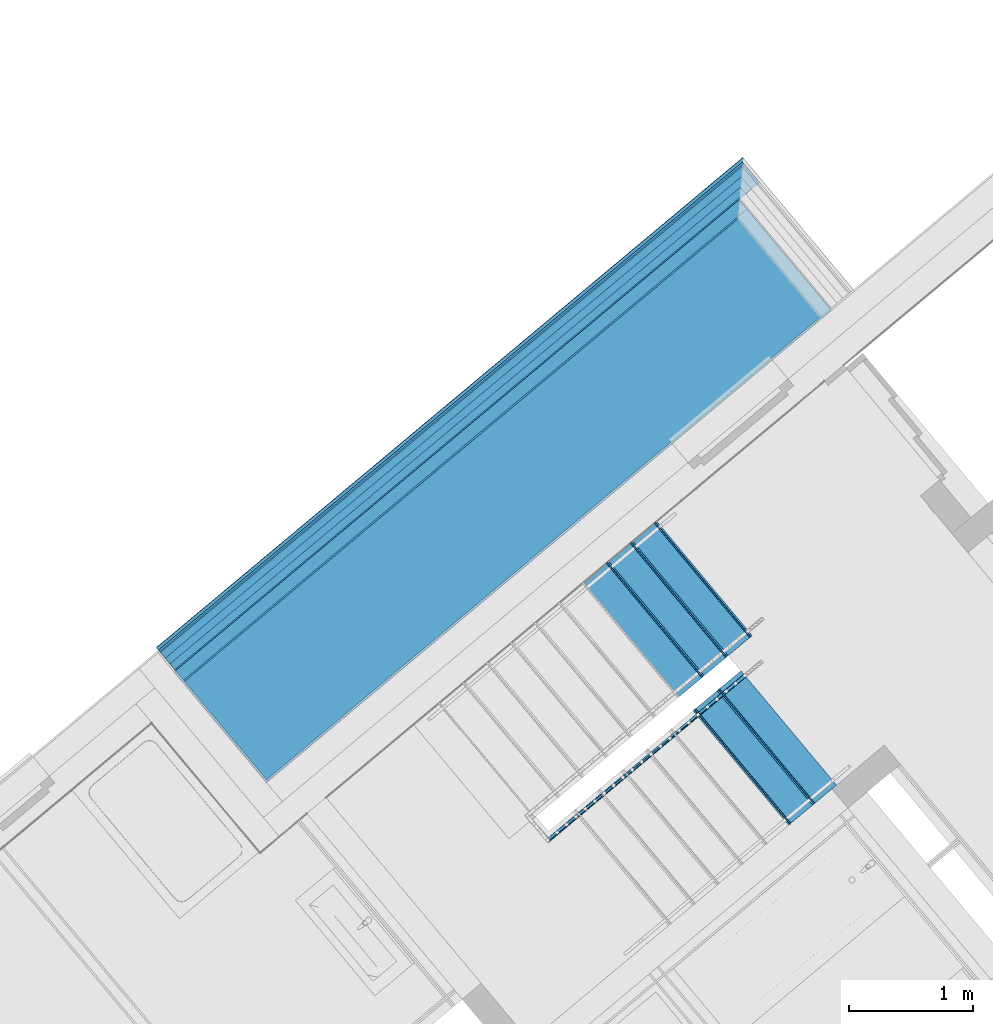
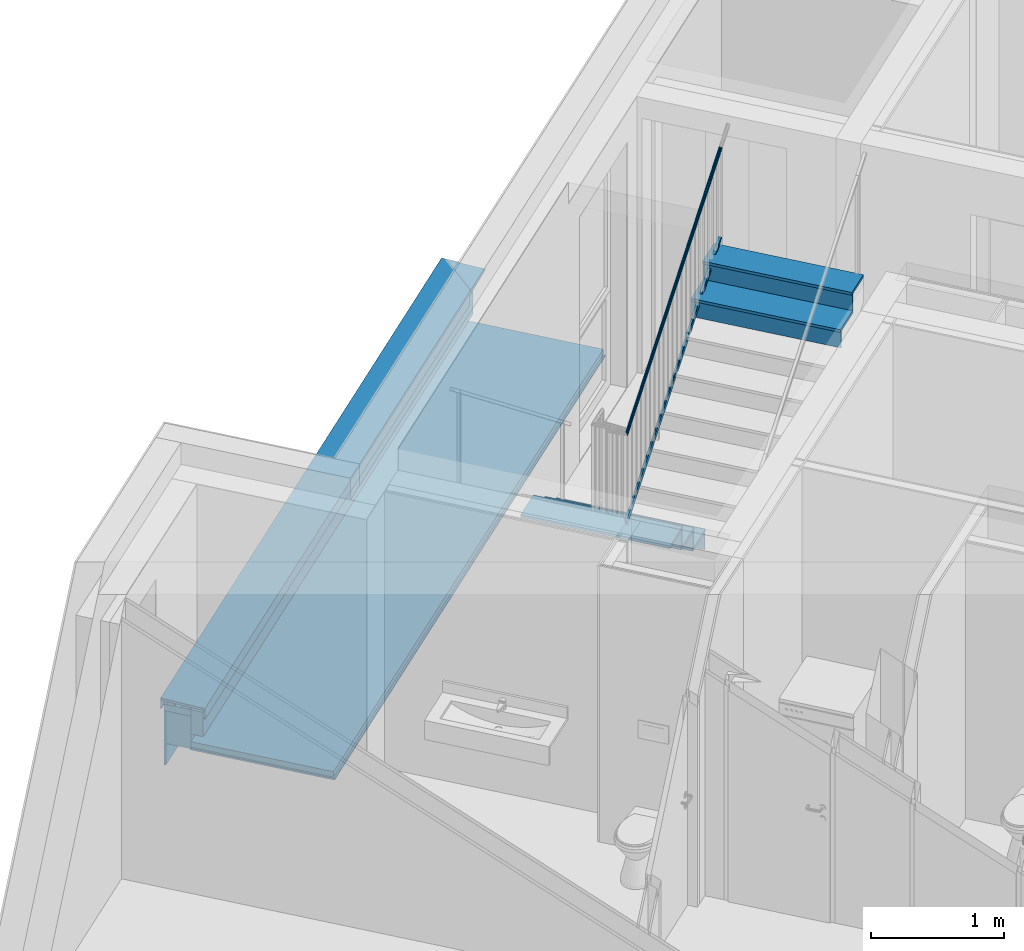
# One storey, part 31 of 50: 22 building element parts, 4 elements without a shape of their own.
"""IFC4 building model written with IfcOpenShell, lengths in metres."""

from ifc_helpers import new_model, entity, si_unit, converted_unit, derived_unit, direction, frame, origin_with_axes, place, context, subcontext, project, spatial, polygons, material, type_object, element, aggregate, save


model = new_model("IFC4")

# Units and contexts
model_context = context("Model", 3, precision=1e-05, world=origin_with_axes(), true_north=direction((0.0, 1.0)))
body_context = subcontext(model_context, "Body", "Model", "MODEL_VIEW")
ifc_project = project(units=[si_unit("LENGTHUNIT", "METRE"), si_unit("AREAUNIT", "SQUARE_METRE"), si_unit("VOLUMEUNIT", "CUBIC_METRE"), converted_unit("PLANEANGLEUNIT", "DEGREE", entity("IfcPlaneAngleMeasure", 0.0174532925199), si_unit("PLANEANGLEUNIT", "RADIAN"), dimensions=[0, 0, 0, 0, 0, 0, 0]), converted_unit("TIMEUNIT", "Year", entity("IfcTimeMeasure", 31556926.0), si_unit("TIMEUNIT", "SECOND"), dimensions=[0, 0, 1, 0, 0, 0, 0]), si_unit("MASSUNIT", "GRAM", prefix="KILO"), si_unit("THERMODYNAMICTEMPERATUREUNIT", "DEGREE_CELSIUS"), si_unit("LUMINOUSINTENSITYUNIT", "LUMEN"), si_unit("ENERGYUNIT", "JOULE", prefix="MEGA"), derived_unit("THERMALCONDUCTANCEUNIT", [(si_unit("POWERUNIT", "WATT"), 1), (si_unit("LENGTHUNIT", "METRE"), -1), (si_unit("THERMODYNAMICTEMPERATUREUNIT", "KELVIN"), -1)]), derived_unit("SPECIFICHEATCAPACITYUNIT", [(si_unit("ENERGYUNIT", "JOULE"), 1), (si_unit("MASSUNIT", "GRAM", prefix="KILO"), -1), (si_unit("THERMODYNAMICTEMPERATUREUNIT", "KELVIN"), -1)]), derived_unit("MASSDENSITYUNIT", [(si_unit("MASSUNIT", "GRAM", prefix="KILO"), 1), (si_unit("VOLUMEUNIT", "CUBIC_METRE"), -1)])], contexts=[model_context])

# Site, building, storey
site_placement = place(None, frame((-0.00153261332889, -0.00661245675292, 0.0), z_axis=(0.0, 0.0, 1.0), x_axis=(1.0, 0.0, 0.0)))
site = spatial("IfcSite", under=ifc_project, at=site_placement, Name="Site", CompositionType="ELEMENT")
building_placement = place(site_placement, origin_with_axes())
building = spatial("IfcBuilding", under=site, at=building_placement, Name="Building", CompositionType="ELEMENT")
storey_placement = place(building_placement, frame((0.0, 0.0, 2.74), z_axis=(0.0, 0.0, 1.0), x_axis=(1.0, 0.0, 0.0)))
storey = spatial("IfcBuildingStorey", under=building, at=storey_placement, Name="OG1", CompositionType="ELEMENT", Elevation=2.74)

# Railing, building element parts
railing_type = type_object("IfcRailingType", Name="Geländerart", PredefinedType="NOTDEFINED")
railing_placement = place(storey_placement, frame((-0.398547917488, 23.8355657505, 0.05), z_axis=(0.0, 0.0, 1.0), x_axis=(1.0, 0.0, 0.0)))
railing = element("IfcRailing", 1, at=railing_placement, inside=storey, type_object=railing_type, Name="Geländer - 001", PredefinedType="NOTDEFINED")
ifc_material_1 = material(Name="BEKLEIDUNG")
building_element_part_1_placement = place(railing_placement, origin_with_axes())
building_element_part_1 = element("IfcBuildingElementPart", 2, at=building_element_part_1_placement, material=ifc_material_1, Name="BEKLEIDUNG", PredefinedType="NOTDEFINED", context=body_context, shape_type="Tessellation", body=[
    polygons([(-1.63742845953, -1.63075810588, 2.62537536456), (-1.63846858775, -1.63088446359, 2.62789734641), (-0.0630386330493, -0.30687497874, 3.89943593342), (-1.63648900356, -1.63122206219, 2.62285338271), (-1.63567876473, -1.63226223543, 2.62040803), (-1.63502236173, -1.63384702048, 2.61811360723), (-1.63453973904, -1.63592826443, 2.61603982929), (-1.63424556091, -1.63844272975, 2.61424970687), (-1.63414876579, -1.64131401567, 2.61279763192), (-1.63425229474, -1.64445487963, 2.61172772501), (-1.63455300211, -1.64776988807, 2.61107249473), (-1.63504175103, -1.65115831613, 2.61085184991), (-1.63570369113, -1.65451720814, 2.61107249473), (-1.63651870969, -1.65774450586, 2.61172772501), (-1.63746204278, -1.66074214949, 2.61279763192), (-1.63850502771, -1.66341905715, 2.61424970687), (-1.63961597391, -1.66569389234, 2.61603982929), (-1.64076112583, -1.66749753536, 2.61811360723), (-1.64190568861, -1.66877518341, 2.62040803), (-1.64301488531, -1.66948801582, 2.62285338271), (-1.64405501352, -1.66961437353, 2.62537536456), (-1.64499446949, -1.66915041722, 2.62789734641), (-1.64580470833, -1.66811024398, 2.63034269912), (-1.64646111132, -1.66652545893, 2.63263712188), (-1.64694373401, -1.66444421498, 2.63471089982), (-1.64723791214, -1.66192974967, 2.63650102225), (-1.64733470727, -1.65905846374, 2.6379530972), (-1.64723117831, -1.65591759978, 2.6390230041), (-1.64693047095, -1.65260259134, 2.63967823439), (-1.64644172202, -1.64921416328, 2.63989887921), (-1.64577978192, -1.64585527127, 2.63967823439), (-1.64496476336, -1.64262797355, 2.6390230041), (-1.64402143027, -1.63963032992, 2.6379530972), (-1.64297844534, -1.63695342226, 2.63650102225), (-1.64186749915, -1.63467858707, 2.63471089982), (-1.64072234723, -1.63287494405, 2.63263712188), (-1.63957778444, -1.631597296, 2.63034269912), (-0.0636185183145, -0.30824141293, 3.90158839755), (-0.0621391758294, -0.305826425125, 3.89721601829), (-0.0609474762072, -0.305127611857, 3.89499610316), (-0.0594997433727, -0.304799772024, 3.89284363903), (-0.0578399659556, -0.304852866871, 3.89082402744), (-0.0560185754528, -0.305285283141, 3.88899863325), (-0.054090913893, -0.306083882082, 3.88742292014), (-0.0521155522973, -0.30722439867, 3.88614476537), (-0.0501525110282, -0.308672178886, 3.88520300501), (-0.0482614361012, -0.310383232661, 3.88462625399), (-0.0464997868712, -0.312305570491, 3.88443203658), (-0.0449210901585, -0.314380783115, 3.88462625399), (-0.043573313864, -0.316545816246, 3.88520300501), (-0.0424974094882, -0.318734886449, 3.88614476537), (-0.0417260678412, -0.320881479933, 3.88742292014), (-0.0412827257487, -0.322920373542, 3.88899863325), (-0.0411808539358, -0.324789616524, 3.89082402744), (-0.041423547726, -0.326432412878, 3.89284363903), (-0.0420034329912, -0.327798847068, 3.89499610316), (-0.0429028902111, -0.328847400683, 3.89721601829), (-0.0440945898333, -0.329546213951, 3.89943593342), (-0.0455423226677, -0.329874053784, 3.90158839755), (-0.0472021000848, -0.329820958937, 3.90360800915), (-0.0490234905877, -0.329388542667, 3.90543340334), (-0.0509511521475, -0.328589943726, 3.90700911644), (-0.0529265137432, -0.327449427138, 3.90828727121), (-0.0548895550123, -0.326001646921, 3.90922903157), (-0.0567806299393, -0.324290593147, 3.90980578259), (-0.0585422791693, -0.322368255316, 3.91), (-0.0601209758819, -0.320293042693, 3.90980578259), (-0.0614687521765, -0.318128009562, 3.90922903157), (-0.0625446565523, -0.315938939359, 3.90828727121), (-0.0633159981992, -0.313792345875, 3.90700911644), (-0.0637593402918, -0.311753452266, 3.90543340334), (-0.0638612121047, -0.309884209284, 3.90360800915)], [[[1, 2, 3]], [[1, 4, 5, 6, 7, 8, 9, 10, 11, 12, 13, 14, 15, 16, 17, 18, 19, 20, 21, 22, 23, 24, 25, 26, 27, 28, 29, 30, 31, 32, 33, 34, 35, 36, 37, 2]], [[2, 38, 3]], [[1, 3, 39]], [[4, 1, 39]], [[5, 4, 40]], [[6, 5, 41]], [[7, 6, 42]], [[8, 7, 43]], [[9, 8, 44]], [[10, 9, 45]], [[11, 10, 46]], [[12, 11, 47]], [[13, 12, 48]], [[14, 13, 49]], [[15, 14, 50]], [[16, 15, 51]], [[17, 16, 52]], [[18, 17, 53]], [[19, 18, 54]], [[20, 19, 55]], [[21, 20, 56]], [[22, 21, 57]], [[23, 22, 58]], [[24, 23, 59]], [[25, 24, 60]], [[26, 25, 61]], [[27, 26, 62]], [[28, 27, 63]], [[29, 28, 64]], [[30, 29, 65]], [[31, 30, 66]], [[32, 31, 67]], [[33, 32, 68]], [[34, 33, 69]], [[35, 34, 70]], [[36, 35, 71]], [[37, 36, 72]], [[2, 37, 38]], [[39, 3, 38, 72, 71, 70, 69, 68, 67, 66, 65, 64, 63, 62, 61, 60, 59, 58, 57, 56, 55, 54, 53, 52, 51, 50, 49, 48, 47, 46, 45, 44, 43, 42, 41, 40]], [[4, 39, 40]], [[5, 40, 41]], [[6, 41, 42]], [[7, 42, 43]], [[8, 43, 44]], [[9, 44, 45]], [[10, 45, 46]], [[11, 46, 47]], [[12, 47, 48]], [[13, 48, 49]], [[14, 49, 50]], [[15, 50, 51]], [[16, 51, 52]], [[17, 52, 53]], [[18, 53, 54]], [[19, 54, 55]], [[20, 55, 56]], [[21, 56, 57]], [[22, 57, 58]], [[23, 58, 59]], [[24, 59, 60]], [[25, 60, 61]], [[26, 61, 62]], [[27, 62, 63]], [[28, 63, 64]], [[29, 64, 65]], [[30, 65, 66]], [[31, 66, 67]], [[32, 67, 68]], [[33, 68, 69]], [[34, 69, 70]], [[35, 70, 71]], [[36, 71, 72]], [[37, 72, 38]]], closed=True),
])
building_element_part_2_placement = place(railing_placement, origin_with_axes())
building_element_part_2 = element("IfcBuildingElementPart", 3, at=building_element_part_2_placement, material=ifc_material_1, Name="BEKLEIDUNG", PredefinedType="NOTDEFINED", context=body_context, shape_type="Tessellation", body=[
    polygons([(-1.6539527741, -1.66459421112, 1.82200180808), (-1.64445279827, -1.66621433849, 1.79779595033), (-0.0455094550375, -0.327767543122, 3.06934668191), (-1.64843064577, -1.63221398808, 1.82200180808), (-1.63893066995, -1.63383411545, 1.79779595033), (-0.0615396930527, -0.308583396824, 3.06934668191), (-0.0555448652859, -0.336153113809, 3.09065331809), (-0.0715751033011, -0.316968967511, 3.09065331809)], [[[1, 2, 3]], [[1, 4, 5, 2]], [[2, 6, 3]], [[1, 3, 7]], [[4, 1, 7]], [[5, 4, 8]], [[2, 5, 6]], [[7, 3, 6, 8]], [[4, 7, 8]], [[5, 8, 6]]], closed=True),
])
aggregate(railing, [building_element_part_1, building_element_part_2])

# Stair, building element parts
stair_type = type_object("IfcStairType", Name="Treppentyp", PredefinedType="NOTDEFINED")
stair_placement = place(storey_placement, frame((-0.972083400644, 24.9200947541, 0.05), z_axis=(0.0, 0.0, 1.0), x_axis=(1.0, 0.0, 0.0)))
stair = element("IfcStair", 4, at=stair_placement, inside=storey, type_object=stair_type, Name="Treppe - 001", PredefinedType="NOTDEFINED")
building_element_part_3_placement = place(stair_placement, origin_with_axes())
building_element_part_3 = element("IfcBuildingElementPart", 5, at=building_element_part_3_placement, material=ifc_material_1, Name="BEKLEIDUNG", PredefinedType="NOTDEFINED", context=body_context, shape_type="Tessellation", body=[
    polygons([(-0.207379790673, -0.173268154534, 0.152058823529), (-0.215053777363, -0.179679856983, 0.152058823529), (0.55435051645, -1.10055825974, 0.152058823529), (0.56202450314, -1.09414655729, 0.152058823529), (-0.207379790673, -0.173268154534, 0.0), (-0.215053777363, -0.179679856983, 0.0), (0.55435051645, -1.10055825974, 0.0), (0.56202450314, -1.09414655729, 0.0)], [[[1, 2, 3, 4]], [[1, 5, 6, 2]], [[2, 6, 7, 3]], [[4, 3, 7, 8]], [[5, 1, 4, 8]], [[6, 5, 8, 7]]], closed=True),
])
building_element_part_4_placement = place(stair_placement, origin_with_axes())
building_element_part_4 = element("IfcBuildingElementPart", 6, at=building_element_part_4_placement, material=ifc_material_1, Name="BEKLEIDUNG", PredefinedType="NOTDEFINED", context=body_context, shape_type="Tessellation", body=[
    polygons([(-0.400526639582, -0.334644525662, 0.329117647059), (-0.408200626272, -0.341056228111, 0.329117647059), (0.361203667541, -1.26193463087, 0.329117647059), (0.368877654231, -1.25552292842, 0.329117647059), (-0.400526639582, -0.334644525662, 0.177058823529), (-0.408200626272, -0.341056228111, 0.177058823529), (0.361203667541, -1.26193463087, 0.177058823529), (0.368877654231, -1.25552292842, 0.177058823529)], [[[1, 2, 3, 4]], [[1, 5, 6, 2]], [[2, 6, 7, 3]], [[4, 3, 7, 8]], [[5, 1, 4, 8]], [[6, 5, 8, 7]]], closed=True),
])
building_element_part_5_placement = place(stair_placement, origin_with_axes())
building_element_part_5 = element("IfcBuildingElementPart", 7, at=building_element_part_5_placement, material=ifc_material_1, Name="BEKLEIDUNG", PredefinedType="NOTDEFINED", context=body_context, shape_type="Tessellation", body=[
    polygons([(-0.593673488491, -0.49602089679, 0.506176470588), (-0.601347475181, -0.502432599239, 0.506176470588), (0.168056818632, -1.42331100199, 0.506176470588), (0.175730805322, -1.41689929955, 0.506176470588), (-0.593673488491, -0.49602089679, 0.354117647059), (-0.601347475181, -0.502432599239, 0.354117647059), (0.168056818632, -1.42331100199, 0.354117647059), (0.175730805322, -1.41689929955, 0.354117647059)], [[[1, 2, 3, 4]], [[1, 5, 6, 2]], [[2, 6, 7, 3]], [[4, 3, 7, 8]], [[5, 1, 4, 8]], [[6, 5, 8, 7]]], closed=True),
])
building_element_part_6_placement = place(stair_placement, origin_with_axes())
building_element_part_6 = element("IfcBuildingElementPart", 8, at=building_element_part_6_placement, material=ifc_material_1, Name="BEKLEIDUNG", PredefinedType="NOTDEFINED", context=body_context, shape_type="Tessellation", body=[
    polygons([(0.877617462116, -2.60252235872, 2.80794117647), (0.885291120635, -2.59611026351, 2.80794117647), (0.115839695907, -1.67527124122, 2.80794117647), (0.108166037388, -1.68168333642, 2.80794117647), (0.877617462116, -2.60252235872, 2.65588235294), (0.885291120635, -2.59611026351, 2.65588235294), (0.115839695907, -1.67527124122, 2.65588235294), (0.108166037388, -1.68168333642, 2.65588235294)], [[[1, 2, 3, 4]], [[1, 5, 6, 2]], [[2, 6, 7, 3]], [[4, 3, 7, 8]], [[5, 1, 4, 8]], [[6, 5, 8, 7]]], closed=True),
])
building_element_part_7_placement = place(stair_placement, origin_with_axes())
building_element_part_7 = element("IfcBuildingElementPart", 9, at=building_element_part_7_placement, material=ifc_material_1, Name="BEKLEIDUNG", PredefinedType="NOTDEFINED", context=body_context, shape_type="Tessellation", body=[
    polygons([(1.07075605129, -2.44113610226, 2.985), (1.07842970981, -2.43472400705, 2.985), (0.30897828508, -1.51388498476, 2.985), (0.301304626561, -1.52029707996, 2.985), (1.07075605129, -2.44113610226, 2.83294117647), (1.07842970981, -2.43472400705, 2.83294117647), (0.30897828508, -1.51388498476, 2.83294117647), (0.301304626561, -1.52029707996, 2.83294117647)], [[[1, 2, 3, 4]], [[1, 5, 6, 2]], [[2, 6, 7, 3]], [[4, 3, 7, 8]], [[5, 1, 4, 8]], [[6, 5, 8, 7]]], closed=True),
])
building_element_part_8_placement = place(stair_placement, origin_with_axes())
building_element_part_8 = element("IfcBuildingElementPart", 10, at=building_element_part_8_placement, material=ifc_material_1, Name="BEKLEIDUNG", PredefinedType="NOTDEFINED", context=body_context, shape_type="Tessellation", body=[
    polygons([(0.573535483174, -1.08452900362, 0.152058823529), (-0.195868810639, -0.163650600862, 0.152058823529), (-0.195868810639, -0.163650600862, 0.177058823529), (0.573535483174, -1.08452900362, 0.177058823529), (0.361203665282, -1.26193463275, 0.152058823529), (-0.408200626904, -0.341056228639, 0.152058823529), (-0.408200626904, -0.341056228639, 0.177058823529), (0.361203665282, -1.26193463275, 0.177058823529)], [[[1, 2, 3, 4]], [[1, 5, 6, 2]], [[2, 6, 7, 3]], [[4, 3, 7, 8]], [[5, 1, 4, 8]], [[6, 5, 8, 7]]], closed=True),
])
building_element_part_9_placement = place(stair_placement, origin_with_axes())
building_element_part_9 = element("IfcBuildingElementPart", 11, at=building_element_part_9_placement, material=ifc_material_1, Name="BEKLEIDUNG", PredefinedType="NOTDEFINED", context=body_context, shape_type="Tessellation", body=[
    polygons([(0.380388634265, -1.24590537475, 0.329117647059), (-0.389015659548, -0.32502697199, 0.329117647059), (-0.389015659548, -0.32502697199, 0.354117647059), (0.380388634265, -1.24590537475, 0.354117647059), (0.168056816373, -1.42331100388, 0.329117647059), (-0.601347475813, -0.502432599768, 0.329117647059), (-0.601347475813, -0.502432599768, 0.354117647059), (0.168056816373, -1.42331100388, 0.354117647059)], [[[1, 2, 3, 4]], [[1, 5, 6, 2]], [[2, 6, 7, 3]], [[4, 3, 7, 8]], [[5, 1, 4, 8]], [[6, 5, 8, 7]]], closed=True),
])
building_element_part_10_placement = place(stair_placement, origin_with_axes())
building_element_part_10 = element("IfcBuildingElementPart", 12, at=building_element_part_10_placement, material=ifc_material_1, Name="BEKLEIDUNG", PredefinedType="NOTDEFINED", context=body_context, shape_type="Tessellation", body=[
    polygons([(0.187241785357, -1.40728174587, 0.506176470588), (-0.582162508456, -0.486403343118, 0.506176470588), (-0.582162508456, -0.486403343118, 0.531176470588), (0.187241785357, -1.40728174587, 0.531176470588), (-0.0250900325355, -1.58468737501, 0.506176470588), (-0.794494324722, -0.663808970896, 0.506176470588), (-0.794494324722, -0.663808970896, 0.531176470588), (-0.0250900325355, -1.58468737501, 0.531176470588)], [[[1, 2, 3, 4]], [[1, 5, 6, 2]], [[2, 6, 7, 3]], [[4, 3, 7, 8]], [[5, 1, 4, 8]], [[6, 5, 8, 7]]], closed=True),
])
building_element_part_11_placement = place(stair_placement, origin_with_axes())
building_element_part_11 = element("IfcBuildingElementPart", 13, at=building_element_part_11_placement, material=ifc_material_1, Name="BEKLEIDUNG", PredefinedType="NOTDEFINED", context=body_context, shape_type="Tessellation", body=[
    polygons([(0.0966555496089, -1.69130147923, 2.80794117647), (0.866106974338, -2.61214050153, 2.80794117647), (0.866106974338, -2.61214050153, 2.83294117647), (0.0966555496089, -1.69130147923, 2.83294117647), (0.308978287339, -1.51388498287, 2.80794117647), (1.07842971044, -2.43472400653, 2.80794117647), (1.07842971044, -2.43472400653, 2.83294117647), (0.308978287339, -1.51388498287, 2.83294117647)], [[[1, 2, 3, 4]], [[1, 5, 6, 2]], [[2, 6, 7, 3]], [[4, 3, 7, 8]], [[5, 1, 4, 8]], [[6, 5, 8, 7]]], closed=True),
])
building_element_part_12_placement = place(stair_placement, origin_with_axes())
building_element_part_12 = element("IfcBuildingElementPart", 14, at=building_element_part_12_placement, material=ifc_material_1, Name="BEKLEIDUNG", PredefinedType="NOTDEFINED", context=body_context, shape_type="Tessellation", body=[
    polygons([(0.289794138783, -1.52991522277, 2.985), (1.05924556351, -2.45075424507, 2.985), (1.05924556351, -2.45075424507, 3.01), (0.289794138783, -1.52991522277, 3.01), (0.482932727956, -1.36852896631, 2.985), (1.25238415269, -2.28936798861, 2.985), (1.25238415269, -2.28936798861, 3.01), (0.482932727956, -1.36852896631, 3.01)], [[[1, 2, 3, 4]], [[1, 5, 6, 2]], [[2, 6, 7, 3]], [[4, 3, 7, 8]], [[5, 1, 4, 8]], [[6, 5, 8, 7]]], closed=True),
])
aggregate(stair, [building_element_part_3, building_element_part_4, building_element_part_5, building_element_part_6, building_element_part_7, building_element_part_8, building_element_part_9, building_element_part_10, building_element_part_11, building_element_part_12])

# Wall, building element parts
wall_type = type_object("IfcWallType", Name="Bauteil - Attika Balkon 356 x 610", PredefinedType="NOTDEFINED")
wall_placement = place(storey_placement, frame((-5.04439151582, 23.5527984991, -0.2), z_axis=(0.0, 0.0, 1.0), x_axis=(0.767365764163, 0.641209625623, 0.0)))
wall = element("IfcWall", 15, at=wall_placement, inside=storey, type_object=wall_type, Name="Wand-002", PredefinedType="NOTDEFINED")
ifc_material_2 = material(Name="Zementputz")
building_element_part_13_placement = place(wall_placement, origin_with_axes())
building_element_part_13 = element("IfcBuildingElementPart", 16, at=building_element_part_13_placement, material=ifc_material_2, Name="Zementputz", PredefinedType="NOTDEFINED", context=body_context, shape_type="Tessellation", body=[
    polygons([(6.13190948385, 0.199999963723, 0.200000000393), (6.13190948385, 0.199999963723, 0.499999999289), (0.0, 0.199999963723, 0.500000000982), (0.0, 0.199999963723, 0.200000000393), (6.13190948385, 0.199999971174, 0.0), (6.13190921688, 0.214999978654, 0.0), (6.13190921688, 0.214999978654, 0.499999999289), (0.0, 0.214999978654, 0.500000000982), (0.0, 0.214999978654, 0.0), (0.0, 0.199999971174, 0.0)], [[[1, 2, 3, 4]], [[2, 1, 5, 6, 7]], [[2, 7, 8, 3]], [[3, 8, 9, 10, 4]], [[5, 1, 4, 10]], [[6, 5, 10, 9]], [[7, 6, 9, 8]]], closed=True),
])
ifc_material_3 = material(Name="Vollholz")
building_element_part_14_placement = place(wall_placement, origin_with_axes())
building_element_part_14 = element("IfcBuildingElementPart", 17, at=building_element_part_14_placement, material=ifc_material_3, Name="Vollholz", PredefinedType="NOTDEFINED", context=body_context, shape_type="Tessellation", body=[
    polygons([(6.10690581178, 0.189996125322, 0.584015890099), (6.10690687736, 0.130124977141, 0.584015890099), (6.10691811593, 0.130124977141, 0.581921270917), (6.10691705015, 0.190007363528, 0.581921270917), (6.10689467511, 0.189984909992, 0.586106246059), (6.10695215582, 0.130124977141, 0.575576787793), (6.10692937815, 0.130124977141, 0.57982217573), (0.0, 0.130124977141, 0.584015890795), (0.0, 0.130124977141, 0.560000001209), (6.10703572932, 0.130124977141, 0.560000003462), (6.10692831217, 0.190018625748, 0.57982217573), (6.10695108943, 0.190041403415, 0.575576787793), (6.10703466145, 0.190124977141, 0.560000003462), (0.0, 0.190124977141, 0.560000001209), (0.0, 0.189984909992, 0.586106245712)], [[[1, 2, 3, 4]], [[5, 2, 1]], [[6, 7, 3, 2, 8, 9, 10]], [[7, 11, 4, 3]], [[5, 1, 4, 11, 12, 13, 14, 15]], [[2, 5, 15, 8]], [[11, 7, 6, 12]], [[15, 14, 9, 8]], [[13, 10, 9, 14]], [[10, 13, 12, 6]]], closed=True),
])
ifc_material_4 = material(Name="Brettschichtholz")
building_element_part_15_placement = place(wall_placement, origin_with_axes())
building_element_part_15 = element("IfcBuildingElementPart", 18, at=building_element_part_15_placement, material=ifc_material_4, Name="Brettschichtholz", PredefinedType="NOTDEFINED", context=body_context, shape_type="Tessellation", body=[
    polygons([(6.13191304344, 0.0, 0.519273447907), (6.13191304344, 0.0, 0.56000000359), (0.0, 0.0, 0.560000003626), (0.0, 0.0, 0.499999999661), (6.13191304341, 0.0, 0.499999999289), (6.13191304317, 0.0, 0.509099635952), (6.13191304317, 0.0, 0.511410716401), (6.13191286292, 0.010142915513, 0.56000000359), (6.1319092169, 0.214999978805, 0.519273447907), (6.1319092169, 0.214999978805, 0.56000000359), (6.13190965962, 0.190124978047, 0.56000000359), (6.13191072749, 0.130124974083, 0.56000000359), (6.13191179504, 0.0701429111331, 0.56000000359), (0.0, 0.010142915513, 0.559999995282), (0.0, 0.130124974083, 0.559999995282), (0.0, 0.190124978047, 0.559999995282), (0.0, 0.214999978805, 0.560000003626), (0.0, 0.214999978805, 0.499999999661), (0.0, 0.0701429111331, 0.559999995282), (6.13190921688, 0.214999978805, 0.499999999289), (6.13190921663, 0.214999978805, 0.509099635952), (6.13190921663, 0.214999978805, 0.511410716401)], [[[1, 2, 3, 4, 5, 6, 7]], [[8, 2, 1, 9, 10, 11, 12, 13]], [[2, 8, 14, 3]], [[15, 16, 17, 18, 4, 3, 14, 19]], [[18, 20, 5, 4]], [[21, 6, 5, 20]], [[22, 7, 6, 21]], [[9, 1, 7, 22]], [[10, 9, 22, 21, 20, 18, 17]], [[11, 10, 17, 16]], [[12, 11, 16, 15]], [[13, 12, 15, 19]], [[8, 13, 19, 14]]], closed=True),
])
ifc_material_5 = material(Name="Stahlbeton")
building_element_part_16_placement = place(wall_placement, origin_with_axes())
building_element_part_16 = element("IfcBuildingElementPart", 19, at=building_element_part_16_placement, material=ifc_material_5, Name="Stahlbeton", PredefinedType="NOTDEFINED", context=body_context, shape_type="Tessellation", body=[
    polygons([(6.11691302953, 1.05296749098e-09, 0.498915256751), (6.11691302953, 1.05296749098e-09, 0.500000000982), (0.0, 1.05297104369e-09, 0.500000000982), (0.0, 1.05297104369e-09, 0.335000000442), (6.11691302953, 1.05296749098e-09, 0.334999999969), (6.11691302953, 1.05296749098e-09, 0.496604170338), (6.11690946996, 0.19999996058, 0.500000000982), (6.11690946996, 0.19999996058, 0.498915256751), (0.0, 0.19999996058, 0.500000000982), (0.0, 0.19999996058, 0.2), (0.0, 1.05297104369e-09, 0.2), (6.11691302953, 1.05296749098e-09, 0.2), (6.11690946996, 0.19999996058, 0.496604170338), (6.11690946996, 0.19999996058, 0.334999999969), (6.11690946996, 0.19999996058, 0.2)], [[[1, 2, 3, 4, 5, 6]], [[7, 2, 1, 8]], [[2, 7, 9, 3]], [[3, 9, 10, 11, 4]], [[12, 5, 4, 11]], [[13, 6, 5, 14]], [[8, 1, 6, 13]], [[7, 8, 13, 14, 15, 10, 9]], [[15, 12, 11, 10]], [[14, 5, 12, 15]]], closed=True),
])
building_element_part_17_placement = place(wall_placement, origin_with_axes())
building_element_part_17 = element("IfcBuildingElementPart", 20, at=building_element_part_17_placement, material=ifc_material_3, Name="Vollholz", PredefinedType="NOTDEFINED", context=body_context, shape_type="Tessellation", body=[
    polygons([(5.98705472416, 0.0701429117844, 0.57982217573), (5.98705579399, 0.0100326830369, 0.57982217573), (5.98705579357, 0.0100562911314, 0.575576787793), (5.98705472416, 0.0701429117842, 0.575576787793), (5.98705472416, 0.0701429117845, 0.581921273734), (0.0, 0.0100326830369, 0.579822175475), (0.0, 0.0101429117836, 0.560000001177), (5.98705579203, 0.0101429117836, 0.560000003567), (5.98705472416, 0.0701429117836, 0.560000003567), (0.0, 0.0701429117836, 0.560000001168), (0.0, 0.0701429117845, 0.581921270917)], [[[1, 2, 3, 4]], [[5, 2, 1]], [[2, 6, 7, 8, 3]], [[4, 3, 8, 9]], [[5, 1, 4, 9, 10, 11]], [[2, 5, 11, 6]], [[7, 6, 11, 10]], [[9, 8, 7, 10]]], closed=True),
])
ifc_material_6 = material(Name="EPS 1")
building_element_part_18_placement = place(wall_placement, origin_with_axes())
building_element_part_18 = element("IfcBuildingElementPart", 21, at=building_element_part_18_placement, material=ifc_material_6, Name="EPS 1", PredefinedType="NOTDEFINED", context=body_context, shape_type="Tessellation", body=[
    polygons([(5.91691484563, -0.0999999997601, 0.519273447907), (5.91691484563, -0.0999999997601, 0.560000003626), (0.0, -0.0999999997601, 0.560000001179), (0.0, -0.0999999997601, 0.334999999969), (5.91691484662, -0.0999999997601, 0.334999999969), (5.91691484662, -0.0999999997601, 0.496604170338), (5.91691484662, -0.0999999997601, 0.498915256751), (5.91691484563, -0.0999999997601, 0.499999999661), (5.91691484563, -0.0999999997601, 0.506731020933), (5.91691484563, -0.0999999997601, 0.509099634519), (5.91691484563, -0.0999999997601, 0.511410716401), (5.91691306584, 2.39911202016e-10, 0.560000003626), (5.91691306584, 2.39911202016e-10, 0.519273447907), (0.0, 2.39907649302e-10, 0.560000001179), (0.0, 2.39907649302e-10, 0.334999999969), (5.91691306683, 2.39904096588e-10, 0.334999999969), (5.91691306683, 2.39911202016e-10, 0.496604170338), (5.91691306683, 2.39911202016e-10, 0.498915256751), (5.91691306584, 2.39893438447e-10, 0.499999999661), (5.91691306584, 2.39911202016e-10, 0.506731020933), (5.91691306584, 2.39911202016e-10, 0.509099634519), (5.91691306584, 2.39911202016e-10, 0.511410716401)], [[[1, 2, 3, 4, 5, 6, 7, 8, 9, 10, 11]], [[12, 2, 1, 13]], [[2, 12, 14, 3]], [[4, 3, 14, 15]], [[16, 5, 4, 15]], [[17, 6, 5, 16]], [[18, 7, 6, 17]], [[19, 8, 7, 18]], [[20, 9, 8, 19]], [[21, 10, 9, 20]], [[22, 11, 10, 21]], [[13, 1, 11, 22]], [[12, 13, 22, 21, 20, 19, 18, 17, 16, 15, 14]]], closed=True),
])
ifc_material_7 = material(Name="Holzwerkstoff")
building_element_part_19_placement = place(wall_placement, origin_with_axes())
building_element_part_19 = element("IfcBuildingElementPart", 22, at=building_element_part_19_placement, material=ifc_material_7, Name="Holzwerkstoff", PredefinedType="NOTDEFINED", context=body_context, shape_type="Tessellation", body=[
    polygons([(0.0, -0.111539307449, 0.575576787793), (0.0, 0.0100326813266, 0.579822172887), (5.92694548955, 0.0100326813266, 0.579822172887), (5.80537573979, -0.111539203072, 0.575576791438), (0.0, -0.112247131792, 0.5958462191), (0.0, 0.23927649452, 0.608570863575), (0.0, 0.23999998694, 0.587852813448), (0.0, 0.189984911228, 0.586106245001), (0.0, 0.13012497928, 0.584015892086), (0.0, 0.0701429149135, 0.581921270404), (5.98705471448, 0.0701429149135, 0.581921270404), (5.92694773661, -0.111687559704, 0.579822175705), (5.98705796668, -0.111760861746, 0.581921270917), (6.0470400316, -0.11183400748, 0.584015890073), (6.10689996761, -0.111907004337, 0.586106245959), (6.15691504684, -0.111967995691, 0.587852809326), (6.15663591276, -0.112247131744, 0.595846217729), (6.15618529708, 0.23927649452, 0.608570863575), (6.15662964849, 0.239720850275, 0.595846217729), (6.15690878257, 0.239999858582, 0.587852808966), (6.10689456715, 0.189984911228, 0.586106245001), (6.04703572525, 0.130124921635, 0.584015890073)], [[[1, 2, 3, 4]], [[1, 5, 6, 7, 8, 9, 10, 2]], [[2, 10, 11, 3]], [[12, 4, 3]], [[5, 1, 4, 12, 13, 14, 15, 16, 17]], [[6, 5, 17, 18]], [[7, 6, 18, 19, 20]], [[8, 7, 20, 21]], [[9, 8, 21, 22]], [[10, 9, 22, 11]], [[13, 12, 3, 11]], [[14, 13, 11, 22]], [[14, 22, 21, 15]], [[21, 20, 16, 15]], [[20, 19, 17, 16]], [[19, 18, 17]]], closed=True),
])
ifc_material_8 = material(Name="Stahl")
building_element_part_20_placement = place(wall_placement, origin_with_axes())
building_element_part_20 = element("IfcBuildingElementPart", 23, at=building_element_part_20_placement, material=ifc_material_8, Name="Stahl", PredefinedType="NOTDEFINED", context=body_context, shape_type="Tessellation", body=[
    polygons([(0.0, -0.113600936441, 0.597151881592), (0.0, -0.113600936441, 0.497561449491), (5.80522870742, -0.113600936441, 0.497561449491), (5.80658251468, -0.11360093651, 0.498915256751), (5.80466795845, -0.11360093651, 0.498915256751), (5.80466795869, -0.11360093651, 0.499999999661), (5.80466795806, -0.11360093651, 0.506731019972), (5.80466795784, -0.11360093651, 0.509099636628), (5.80466795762, -0.11360093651, 0.511410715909), (5.80466795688, -0.1136009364, 0.519273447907), (5.80466795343, -0.11360093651, 0.560000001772), (5.8046679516, -0.11360093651, 0.575576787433), (5.8046679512, -0.11360093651, 0.579822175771), (5.80466795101, -0.11360093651, 0.581921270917), (5.80466795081, -0.11360093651, 0.584015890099), (5.80466795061, -0.11360093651, 0.586106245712), (5.80466795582, -0.11360093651, 0.5958462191), (5.84073751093, -0.11360093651, 0.597151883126), (0.0, -0.112643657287, 0.496604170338), (0.0, 0.242707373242, 0.610055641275), (0.0, 0.242707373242, 0.510056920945), (0.0, 0.241750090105, 0.509099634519), (0.0, 0.232580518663, 0.518269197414), (0.0, 0.233490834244, 0.519273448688), (0.0, 0.241353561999, 0.511410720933), (0.0, 0.24135992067, 0.60865214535), (0.0, 0.23927649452, 0.608570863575), (0.0, -0.112247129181, 0.595846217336), (0.0, -0.112247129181, 0.498915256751), (0.0, -0.104431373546, 0.506731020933), (0.0, -0.103427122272, 0.505820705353), (5.80427141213, -0.112643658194, 0.496604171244), (5.80658245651, -0.110332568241, 0.498915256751), (5.80658249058, -0.112247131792, 0.498915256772), (5.80466793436, -0.112247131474, 0.498915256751), (5.8046679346, -0.112247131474, 0.499999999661), (5.80466793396, -0.112247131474, 0.506731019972), (5.80466793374, -0.112247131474, 0.509099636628), (5.80466793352, -0.112247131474, 0.511410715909), (5.80466793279, -0.112247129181, 0.519273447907), (5.80466792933, -0.112247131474, 0.560000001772), (5.80466792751, -0.112247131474, 0.575576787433), (5.80466792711, -0.112247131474, 0.579822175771), (5.80466792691, -0.112247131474, 0.581921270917), (5.80466792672, -0.112247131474, 0.584015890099), (5.80466792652, -0.112247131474, 0.586106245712), (5.80466793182, -0.112247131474, 0.595846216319), (6.15618529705, 0.239276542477, 0.608570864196), (6.15618596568, 0.201708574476, 0.608570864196), (6.15826935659, 0.203952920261, 0.608652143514), (6.15961680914, 0.203952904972, 0.60865214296), (6.15961611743, 0.242707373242, 0.610055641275), (6.15961611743, 0.242707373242, 0.510056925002), (6.15865885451, 0.241750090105, 0.509099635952), (6.15961615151, 0.24079279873, 0.510056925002), (6.15961617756, 0.23943900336, 0.511410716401), (6.15826236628, 0.239438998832, 0.511410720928), (6.15140400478, 0.232580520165, 0.518269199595), (6.1503997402, 0.233490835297, 0.519273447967), (6.1582623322, 0.24135356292, 0.511410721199), (6.15961614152, 0.241353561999, 0.511410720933), (6.15961614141, 0.24135992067, 0.60865214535), (6.15826869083, 0.2413599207, 0.608652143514), (5.80766721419, -0.111162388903, 0.499999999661), (5.81348781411, -0.105341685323, 0.505820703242), (5.81248354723, -0.104431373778, 0.506731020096), (5.81348778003, -0.103427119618, 0.505820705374), (5.80766718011, -0.109247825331, 0.499999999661)], [[[1, 2, 3, 4, 5, 6, 7, 8, 9, 10, 11, 12, 13, 14, 15, 16, 17, 18]], [[19, 2, 1, 20, 21, 22, 23, 24, 25, 26, 27, 28, 29, 30, 31]], [[2, 19, 32, 3]], [[32, 33, 34, 4, 3]], [[35, 5, 4, 34]], [[6, 5, 35, 36]], [[7, 6, 36, 37]], [[8, 7, 37, 38]], [[9, 8, 38, 39]], [[10, 9, 39, 40]], [[11, 10, 40, 41]], [[41, 42, 12, 11]], [[42, 43, 13, 12]], [[43, 44, 14, 13]], [[44, 45, 15, 14]], [[45, 46, 16, 15]], [[46, 47, 17, 16]], [[17, 47, 48, 49, 18]], [[20, 1, 18, 49, 50, 51, 52]], [[21, 20, 52, 53]], [[22, 21, 53, 54]], [[23, 22, 54, 55, 56, 57, 58]], [[24, 23, 58, 59]], [[25, 24, 59, 60]], [[26, 25, 60, 61, 62, 63]], [[27, 26, 63, 48]], [[28, 27, 48, 47]], [[29, 28, 47, 46, 45, 44, 43, 42, 41, 40, 39, 38, 37, 36, 35]], [[30, 29, 35, 34, 64, 65, 66]], [[31, 30, 66, 67]], [[19, 31, 67, 68, 33, 32]], [[34, 33, 68, 64]], [[49, 48, 63, 50]], [[50, 63, 62, 51]], [[51, 62, 61, 56, 55, 53, 52]], [[55, 54, 53]], [[57, 56, 61, 60]], [[60, 59, 58, 57]], [[64, 68, 67, 65]], [[67, 66, 65]]], closed=True),
])
aggregate(wall, [building_element_part_13, building_element_part_14, building_element_part_15, building_element_part_16, building_element_part_17, building_element_part_18, building_element_part_19, building_element_part_20])

# Covering, building element parts
covering_type = type_object("IfcCoveringType", Name="Balkon Vordach 65", PredefinedType="NOTDEFINED")
covering_placement = place(storey_placement, frame((-0.503210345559, 27.3459209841, 0.0), z_axis=(0.0, 0.0, 1.0), x_axis=(1.0, 0.0, 0.0)))
covering = element("IfcCovering", 24, at=covering_placement, inside=storey, type_object=covering_type, Name="Decke-005", PredefinedType="NOTDEFINED")
ifc_material_9 = material(Name="Kies")
building_element_part_21_placement = place(covering_placement, origin_with_axes())
building_element_part_21 = element("IfcBuildingElementPart", 25, at=building_element_part_21_placement, material=ifc_material_9, Name="Kies", PredefinedType="NOTDEFINED", context=body_context, shape_type="Tessellation", body=[
    polygons([(-4.54117935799, -3.79312465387, 0.065), (-3.80607695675, -4.67286330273, 0.065), (0.734379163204, -0.878866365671, 0.065), (0.0, 0.0, 0.065), (-3.80607695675, -4.67286330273, 0.015), (-4.54117935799, -3.79312465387, 0.015), (0.734379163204, -0.878866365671, 0.015), (0.0, 0.0, 0.015)], [[[1, 2, 3, 4]], [[5, 2, 1, 6]], [[2, 5, 7, 3]], [[3, 7, 8, 4]], [[6, 1, 4, 8]], [[5, 6, 8, 7]]], closed=True),
])
ifc_material_10 = material(Name="Sperrschicht")
building_element_part_22_placement = place(covering_placement, origin_with_axes())
building_element_part_22 = element("IfcBuildingElementPart", 26, at=building_element_part_22_placement, material=ifc_material_10, Name="Sperrschicht", PredefinedType="NOTDEFINED", context=body_context, shape_type="Tessellation", body=[
    polygons([(0.0, 0.0, 0.0), (-4.55269169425, -3.80274059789, 0.0), (-4.55269169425, -3.80274059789, 0.015), (0.0, 0.0, 0.015), (0.74399731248, -0.89037686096, 0.0), (-3.80796930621, -4.69399196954, 0.0), (-3.80796930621, -4.69399196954, 0.015), (0.74399731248, -0.89037686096, 0.015)], [[[1, 2, 3, 4]], [[1, 5, 6, 2]], [[2, 6, 7, 3]], [[4, 3, 7, 8]], [[5, 1, 4, 8]], [[6, 5, 8, 7]]], closed=True),
])
aggregate(covering, [building_element_part_21, building_element_part_22])

save(model, "model.ifc")
